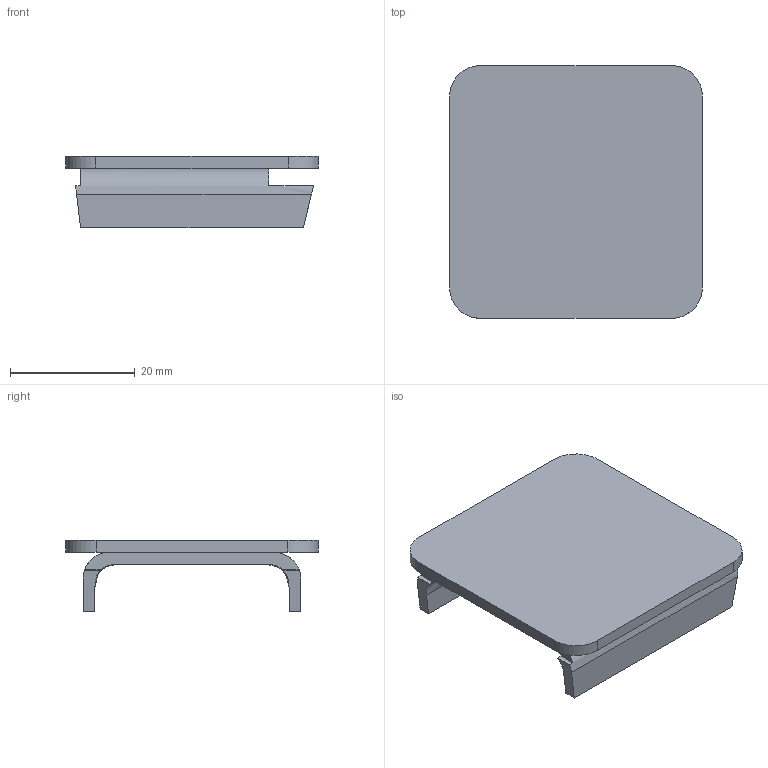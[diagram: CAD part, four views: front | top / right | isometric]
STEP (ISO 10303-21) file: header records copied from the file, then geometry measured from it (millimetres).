
FILE_DESCRIPTION(('TurboCAD Mac Pro'),'Build 980');
FILE_NAME('P1180W.stp',' ',(''),(''),'ACIS Interop','IMSI','TurboCAD Mac Pro BY IMSI, INCORPORATED');
FILE_SCHEMA(('automotive_design'));
Length unit declared in the file: inch
Products named in the file (1): 1
Bounding box: 40.49 x 40.48 x 11.43 mm (x, y, z)
Volume: 6043.6 mm3; surface area: 5307.5 mm2
Topology: 1 solids, 1 shells, 35 faces, 96 edges, 64 vertices
Faces by surface type: plane 27, bspline 8
Entity records: 1536 total; most frequent: CARTESIAN_POINT 442, ORIENTED_EDGE 192, DIRECTION 112, EDGE_CURVE 96, VERTEX_POINT 64, LINE 56, VECTOR 56, B_SPLINE_CURVE_WITH_KNOTS 40
